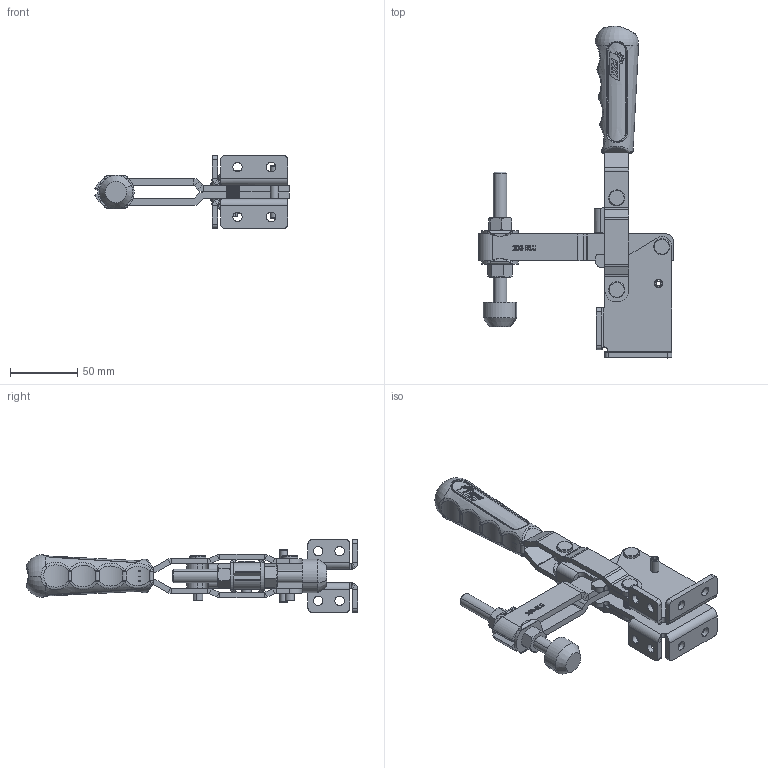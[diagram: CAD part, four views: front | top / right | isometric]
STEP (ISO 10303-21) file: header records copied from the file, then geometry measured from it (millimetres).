
FILE_DESCRIPTION (( 'STEP AP214' ), '1' );
FILE_NAME ('203_YLU.STEP', '2024-09-09T16:31:56', ( '' ), ( '' ), 'SwSTEP 2.0', 'SolidWorks 2023', '' );
FILE_SCHEMA (( 'AUTOMOTIVE_DESIGN' ));
Length unit declared in the file: millimetre
Products named in the file (17): FZK_203_BU_01_00; 203_YLU; FZK_203_B_06_00; TTMK_03_00; M10x100 A.K.B; Ø6x40 YARIKLI PİM; FZK_203_B_03A_00; FZK_203_B_05_00; FZK_203_BU_02_00; M10 A.K. SOMUN ; FZK_203_B_04_00; FZK_203_B_03_00; M10 PABUÇ; FZK_203_YL_02_00; FZK_203_YL_01_00; FZK_203_B_07_00; M10 PUL DIN 125
Assembly tree (22 placements, depth 3):
  203_YLU
    FZK_203_B_07_00  x2
    FZK_203_B_06_00  x2
    TTMK_03_00
    FZK_203_B_05_00
    FZK_203_YL_01_00
    FZK_203_BU_02_00
    FZK_203_B_03_00
      FZK_203_B_03A_00  x2
    FZK_203_YL_02_00
    FZK_203_BU_01_00
    M10 PUL DIN 125  x2
    FZK_203_B_04_00  x2
    Ø6x40 YARIKLI PİM
    M10 A.K. SOMUN   x2
    M10 PABUÇ
    M10x100 A.K.B
Bounding box: 144.57 x 246.71 x 54.01 mm (x, y, z)
Volume: 177006.9 mm3; surface area: 95041.9 mm2
Topology: 21 solids, 21 shells, 1534 faces, 4058 edges, 2582 vertices
Faces by surface type: cylinder 854, plane 294, bspline 274, cone 86, sphere 20, torus 6
Entity records: 54553 total; most frequent: CARTESIAN_POINT 30618, ORIENTED_EDGE 5644, DIRECTION 3593, EDGE_CURVE 2822, VERTEX_POINT 1800, B_SPLINE_CURVE_WITH_KNOTS 1370, AXIS2_PLACEMENT_3D 1320, EDGE_LOOP 1166
